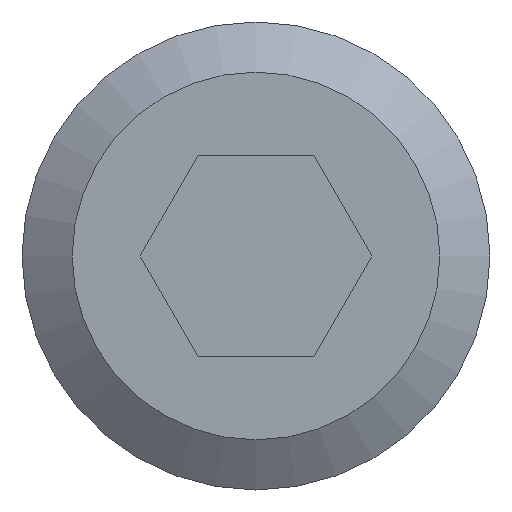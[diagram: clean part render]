
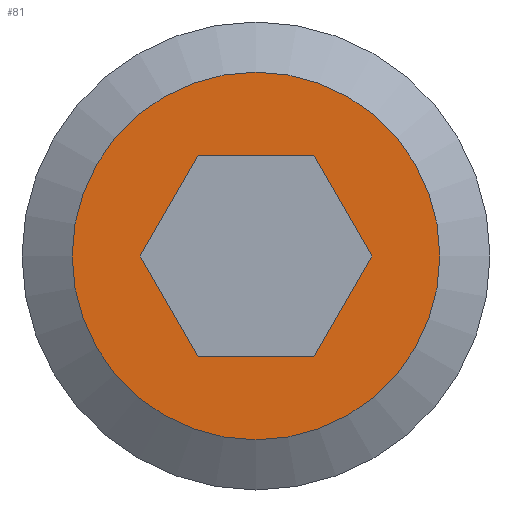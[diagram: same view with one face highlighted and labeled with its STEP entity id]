
A CAD part, left-side view. The second image highlights one B-rep face of the part: STEP entity #81.
In plain terms, the highlighted free-form (B-spline) face has degree [1, 1] with [3, 4] control points.
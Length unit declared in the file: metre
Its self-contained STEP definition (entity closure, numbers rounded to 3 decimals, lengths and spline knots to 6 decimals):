
#81 = ADVANCED_FACE( '', ( #102, #103 ), #104, .T. );
#102 = FACE_BOUND( '', #162, .T. );
#103 = FACE_OUTER_BOUND( '', #163, .T. );
#104 = B_SPLINE_SURFACE_WITH_KNOTS( '', 1, 1, ( ( #164, #165, #166, #167 ), ( #168, #169, #170, #171 ), ( #172, #173, #174, #175 ) ), .UNSPECIFIED., .F., .F., .F., ( 2, 1, 2 ), ( 2, 1, 1, 2 ), ( -0.409091, 0., 1. ), ( -0.287296, 0., 1., 1.287296 ), .UNSPECIFIED. );
#162 = EDGE_LOOP( '', ( #315, #316, #317, #318, #319, #320 ) );
#163 = EDGE_LOOP( '', ( #321 ) );
#164 = CARTESIAN_POINT( '', ( 5.170433, 3.452362, -0.114089 ) );
#165 = CARTESIAN_POINT( '', ( 5.170433, 3.452362, -0.115827 ) );
#166 = CARTESIAN_POINT( '', ( 5.170433, 3.452362, -0.121877 ) );
#167 = CARTESIAN_POINT( '', ( 5.170433, 3.452362, -0.123615 ) );
#168 = CARTESIAN_POINT( '', ( 5.170433, 3.454837, -0.114089 ) );
#169 = CARTESIAN_POINT( '', ( 5.170433, 3.454837, -0.115827 ) );
#170 = CARTESIAN_POINT( '', ( 5.170433, 3.454837, -0.121877 ) );
#171 = CARTESIAN_POINT( '', ( 5.170433, 3.454837, -0.123615 ) );
#172 = CARTESIAN_POINT( '', ( 5.170433, 3.460887, -0.114089 ) );
#173 = CARTESIAN_POINT( '', ( 5.170433, 3.460887, -0.115827 ) );
#174 = CARTESIAN_POINT( '', ( 5.170433, 3.460887, -0.121877 ) );
#175 = CARTESIAN_POINT( '', ( 5.170433, 3.460887, -0.123615 ) );
#315 = ORIENTED_EDGE( '', *, *, #353, .F. );
#316 = ORIENTED_EDGE( '', *, *, #356, .T. );
#317 = ORIENTED_EDGE( '', *, *, #357, .F. );
#318 = ORIENTED_EDGE( '', *, *, #350, .F. );
#319 = ORIENTED_EDGE( '', *, *, #348, .F. );
#320 = ORIENTED_EDGE( '', *, *, #355, .T. );
#321 = ORIENTED_EDGE( '', *, *, #358, .T. );
#348 = EDGE_CURVE( '', #378, #380, #381, .T. );
#350 = EDGE_CURVE( '', #380, #383, #384, .T. );
#353 = EDGE_CURVE( '', #386, #388, #389, .T. );
#355 = EDGE_CURVE( '', #378, #388, #391, .T. );
#356 = EDGE_CURVE( '', #386, #392, #393, .T. );
#357 = EDGE_CURVE( '', #383, #392, #394, .T. );
#358 = EDGE_CURVE( '', #395, #395, #396, .F. );
#378 = VERTEX_POINT( '', #428 );
#380 = VERTEX_POINT( '', #431 );
#381 = LINE( '', #432, #433 );
#383 = VERTEX_POINT( '', #436 );
#384 = LINE( '', #437, #438 );
#386 = VERTEX_POINT( '', #441 );
#388 = VERTEX_POINT( '', #444 );
#389 = LINE( '', #445, #446 );
#391 = B_SPLINE_CURVE_WITH_KNOTS( '', 3, ( #449, #450, #451, #452 ), .UNSPECIFIED., .F., .F., ( 4, 4 ), ( 0., 1. ), .UNSPECIFIED. );
#392 = VERTEX_POINT( '', #453 );
#393 = LINE( '', #454, #455 );
#394 = LINE( '', #456, #457 );
#395 = VERTEX_POINT( '', #458 );
#396 = CIRCLE( '', #459, 0.00275 );
#428 = CARTESIAN_POINT( '', ( 5.170433, 3.458728, -0.120352 ) );
#431 = CARTESIAN_POINT( '', ( 5.170433, 3.456995, -0.120352 ) );
#432 = CARTESIAN_POINT( '', ( 5.170433, 3.457862, -0.120352 ) );
#433 = VECTOR( '', #479, 1. );
#436 = CARTESIAN_POINT( '', ( 5.170433, 3.456129, -0.118852 ) );
#437 = CARTESIAN_POINT( '', ( 5.170433, 3.456562, -0.119602 ) );
#438 = VECTOR( '', #481, 1. );
#441 = CARTESIAN_POINT( '', ( 5.170433, 3.458728, -0.117352 ) );
#444 = CARTESIAN_POINT( '', ( 5.170433, 3.459594, -0.118852 ) );
#445 = CARTESIAN_POINT( '', ( 5.170433, 3.459161, -0.118102 ) );
#446 = VECTOR( '', #484, 1. );
#449 = CARTESIAN_POINT( '', ( 5.170433, 3.458728, -0.120352 ) );
#450 = CARTESIAN_POINT( '', ( 5.170433, 3.459016, -0.119852 ) );
#451 = CARTESIAN_POINT( '', ( 5.170433, 3.459305, -0.119352 ) );
#452 = CARTESIAN_POINT( '', ( 5.170433, 3.459594, -0.118852 ) );
#453 = CARTESIAN_POINT( '', ( 5.170433, 3.456995, -0.117352 ) );
#454 = CARTESIAN_POINT( '', ( 5.170433, 3.456624, -0.117352 ) );
#455 = VECTOR( '', #486, 1. );
#456 = CARTESIAN_POINT( '', ( 5.170433, 3.456562, -0.118102 ) );
#457 = VECTOR( '', #487, 1. );
#458 = CARTESIAN_POINT( '', ( 5.170433, 3.460612, -0.118852 ) );
#459 = AXIS2_PLACEMENT_3D( '', #488, #489, #490 );
#479 = DIRECTION( '', ( 0., -1., 0. ) );
#481 = DIRECTION( '', ( 0., -0.5, 0.866 ) );
#484 = DIRECTION( '', ( 0., 0.5, -0.866 ) );
#486 = DIRECTION( '', ( 0., -1., 0. ) );
#487 = DIRECTION( '', ( 0., 0.5, 0.866 ) );
#488 = CARTESIAN_POINT( '', ( 5.170433, 3.457862, -0.118852 ) );
#489 = DIRECTION( '', ( 1., 0., 0. ) );
#490 = DIRECTION( '', ( 0., 0., -1. ) );
